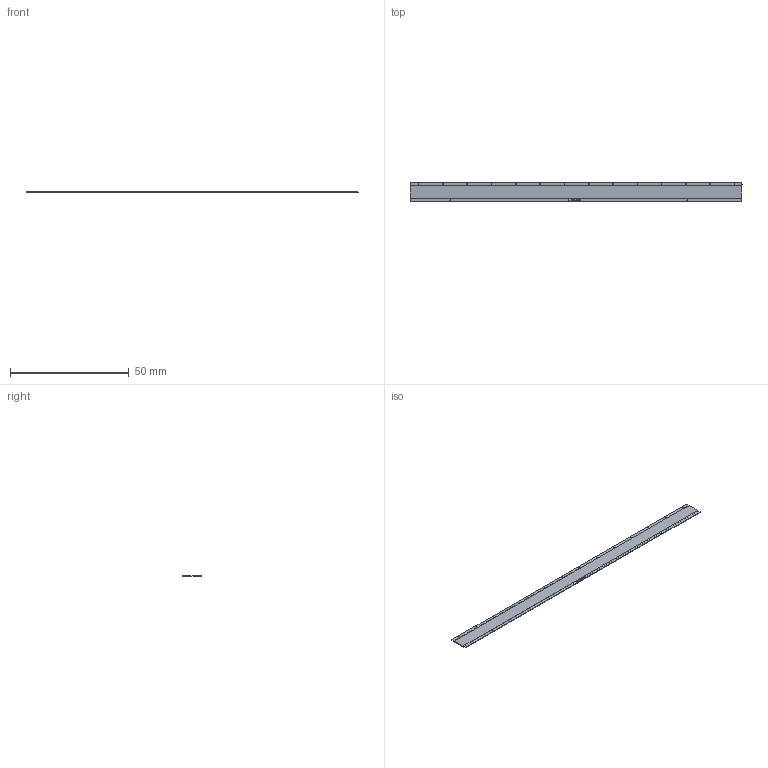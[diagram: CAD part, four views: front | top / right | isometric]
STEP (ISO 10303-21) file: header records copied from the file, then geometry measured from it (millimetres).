
FILE_DESCRIPTION (( 'STEP AP203' ), '1' );
FILE_NAME ('SI80-S-L3000.STEP', '2024-08-23T09:23:00', ( '' ), ( '' ), 'SwSTEP 2.0', 'SolidWorks 2020', '' );
FILE_SCHEMA (( 'CONFIG_CONTROL_DESIGN' ));
Length unit declared in the file: millimetre
Products named in the file (1): SI80-S-L3000
Bounding box: 140 x 8 x 0.42 mm (x, y, z)
Volume: 422.7 mm3; surface area: 2363.7 mm2
Topology: 1 solids, 1 shells, 238 faces, 603 edges, 402 vertices
Faces by surface type: plane 142, bspline 96
Entity records: 12796 total; most frequent: CARTESIAN_POINT 7628, ORIENTED_EDGE 1206, DIRECTION 697, EDGE_CURVE 603, VECTOR 411, LINE 411, VERTEX_POINT 402, EDGE_LOOP 273
